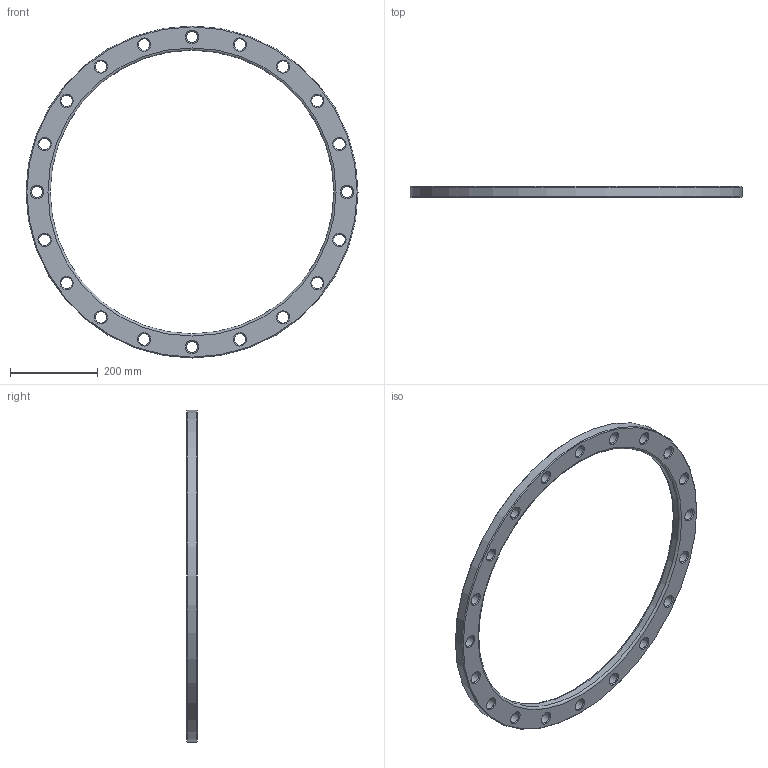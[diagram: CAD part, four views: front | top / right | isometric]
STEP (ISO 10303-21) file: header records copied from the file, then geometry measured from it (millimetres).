
FILE_DESCRIPTION(/* description */ ('Unknown'),/* implementation_level */ '2;1');
FILE_NAME(/* name */ 'FZ630A',/* time_stamp */ '2021-03-15T09:11:02+01:00',/* author */ ('Unknown'),/* organization */ ('Unknown'),/* preprocessor_version */ 'ST-DEVELOPER v16.7',/* originating_system */ 'Solid Edge',/* authorisation */ 'Unknown');
FILE_SCHEMA (('AUTOMOTIVE_DESIGN {1 0 10303 214 3 1 1}'));
Length unit declared in the file: millimetre
Products named in the file (1): FZ630A
Bounding box: 755 x 25 x 755 mm (x, y, z)
Volume: 2720159.9 mm3; surface area: 353599.3 mm2
Topology: 1 solids, 1 shells, 68 faces, 214 edges, 148 vertices
Faces by surface type: cone 42, cylinder 22, plane 2, torus 2
Full cylindrical faces by diameter (mm): 26 x20, 645 x1, 755 x1
Entity records: 1678 total; most frequent: DIRECTION 314, CARTESIAN_POINT 245, ORIENTED_EDGE 176, EDGE_LOOP 176, FACE_BOUND 176, AXIS2_PLACEMENT_3D 157, EDGE_CURVE 88, VERTEX_POINT 88
